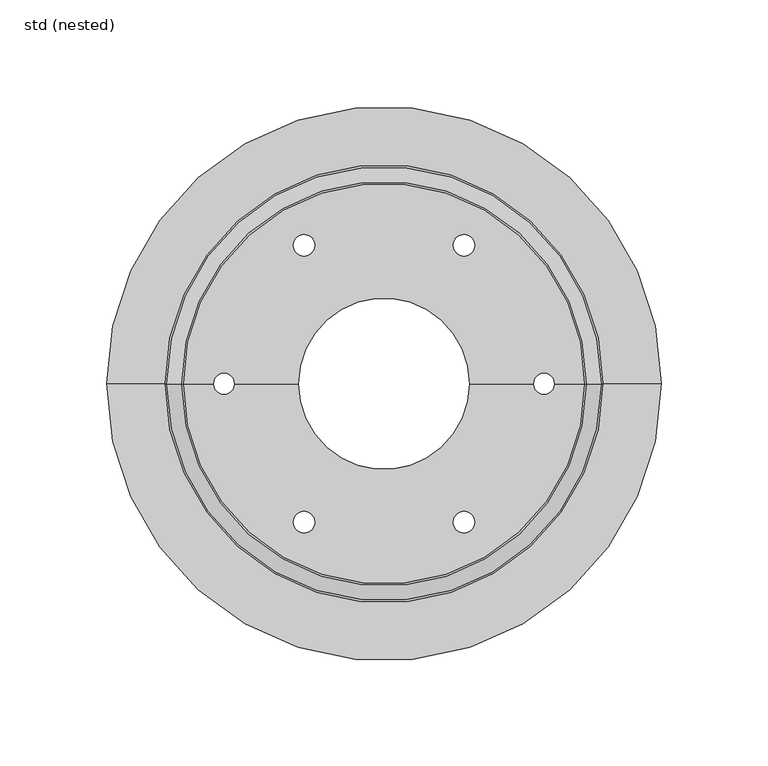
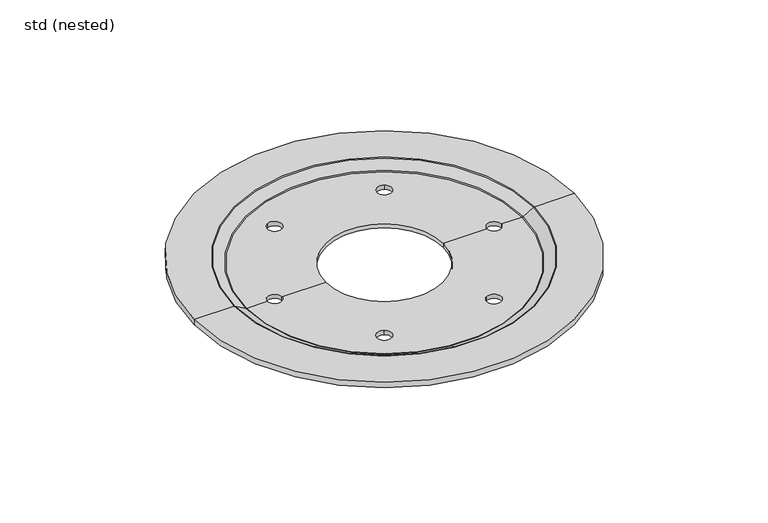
"""IFC4 building model written with IfcOpenShell, lengths in millimetres: sanitary terminal geometry, RSen_50_PF_WPB_Akasison clamp flange seal EPDM_Akatherm : std (nested)."""

from ifc_helpers import new_model, si_unit, point, frame, origin, place, context, project, spatial, polyline, circle_curve, ellipse_curve, trimmed, source, transform, mapped, element, save
from ifc_brep_helpers import plane_surface, cylinder_surface, revolved_surface, advanced_brep


def std_nested_2f69c98b(model_context):
    return source(origin(), model_context, "Body", "AdvancedBrep", [
        advanced_brep(
        [(130.0, 0.0, 4.5), (-130.0, 0.0, 4.5), (-102.80563, 0.0, 4.5), (102.80563, 0.0, 4.5), (93.9396046, 0.0, 0.0), (-93.9396046, 0.0, 0.0), (-80.0, 0.0, 0.0), (-70.0, 0.0, 0.0), (-40.1848081, 0.0, 0.0), (40.1848081, 0.0, 0.0), (70.0, 0.0, 0.0), (80.0, 0.0, 0.0), (-35.0, 60.6217783, 0.0), (-40.0, 69.2820323, 0.0), (35.0, 60.6217783, 0.0), (40.0, 69.2820323, 0.0), (35.0, -60.6217783, 0.0), (40.0, -69.2820323, 0.0), (-35.0, -60.6217783, 0.0), (-40.0, -69.2820323, 0.0), (-70.0, 0.0, -3.0), (-80.0, 0.0, -3.0), (-40.0, 69.2820323, -3.0), (-35.0, 60.6217783, -3.0), (40.0, 69.2820323, -3.0), (35.0, 60.6217783, -3.0), (80.0, 0.0, -3.0), (70.0, 0.0, -3.0), (40.0, -69.2820323, -3.0), (35.0, -60.6217783, -3.0), (-40.0, -69.2820323, -3.0), (-35.0, -60.6217783, -3.0), (130.0, 0.0, 0.5), (-130.0, 0.0, 0.5), (103.9019238, 0.0, 0.5), (-103.9019238, 0.0, 0.5), (40.1848081, 0.0, -3.0), (-40.1848081, 0.0, -3.0), (-96.7679492, 0.0, -3.0), (96.7679492, 0.0, -3.0), (97.7679492, 0.0, -2.7320508), (-97.7679492, 0.0, -2.7320508), (-102.9019238, 0.0, 0.2320508), (102.9019238, 0.0, 0.2320508), (101.80563, 0.0, 4.2320508), (-101.80563, 0.0, 4.2320508), (-94.9396046, 0.0, 0.2679492), (94.9396046, 0.0, 0.2679492)],
        [
            (0, 1, circle_curve(frame((0.0, 0.0, 4.5), z_axis=(0.0, 0.0, 1.0), x_axis=(-1.0, 0.0, 0.0)), 130.0)),
            (1, 2),
            (2, 3, circle_curve(frame((0.0, 0.0, 4.5), z_axis=(0.0, 0.0, -1.0), x_axis=(-1.0, 0.0, 0.0)), 102.80563)),
            (3, 0),
            (1, 0, circle_curve(frame((0.0, 0.0, 4.5), z_axis=(0.0, 0.0, 1.0), x_axis=(-1.0, 0.0, 0.0)), 130.0)),
            (3, 2, circle_curve(frame((0.0, 0.0, 4.5), z_axis=(0.0, 0.0, -1.0), x_axis=(-1.0, 0.0, 0.0)), 102.80563)),
            (4, 5, circle_curve(frame((0.0, 0.0, 0.0), z_axis=(0.0, 0.0, 1.0), x_axis=(-1.0, 0.0, 0.0)), 93.9396046)),
            (5, 6),
            (6, 7, circle_curve(frame((-75.0, 0.0, 0.0), z_axis=(0.0, 0.0, -1.0), x_axis=(1.0, 0.0, 0.0)), 5.0)),
            (7, 8),
            (8, 9, circle_curve(frame((0.0, 0.0, 0.0), z_axis=(0.0, 0.0, -1.0), x_axis=(-1.0, 0.0, 0.0)), 40.1848081)),
            (9, 10),
            (10, 11, circle_curve(frame((75.0, 0.0, 0.0), z_axis=(0.0, 0.0, -1.0), x_axis=(-1.0, 0.0, 0.0)), 5.0)),
            (11, 4),
            (12, 13, circle_curve(frame((-37.5, 64.9519053, 0.0), z_axis=(0.0, 0.0, -1.0), x_axis=(0.4999999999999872, -0.8660254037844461, 0.0)), 5.0)),
            (13, 12, circle_curve(frame((-37.5, 64.9519053, 0.0), z_axis=(0.0, 0.0, -1.0), x_axis=(0.4999999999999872, -0.8660254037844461, 0.0)), 5.0)),
            (14, 15, circle_curve(frame((37.5, 64.9519053, 0.0), z_axis=(0.0, 0.0, -1.0), x_axis=(-0.500000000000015, -0.86602540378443, 0.0)), 5.0)),
            (15, 14, circle_curve(frame((37.5, 64.9519053, 0.0), z_axis=(0.0, 0.0, -1.0), x_axis=(-0.500000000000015, -0.86602540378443, 0.0)), 5.0)),
            (5, 4, circle_curve(frame((0.0, 0.0, 0.0), z_axis=(0.0, 0.0, 1.0), x_axis=(-1.0, 0.0, 0.0)), 93.9396046)),
            (11, 10, circle_curve(frame((75.0, 0.0, 0.0), z_axis=(0.0, 0.0, -1.0), x_axis=(-1.0, 0.0, 0.0)), 5.0)),
            (9, 8, circle_curve(frame((0.0, 0.0, 0.0), z_axis=(0.0, 0.0, -1.0), x_axis=(-1.0, 0.0, 0.0)), 40.1848081)),
            (7, 6, circle_curve(frame((-75.0, 0.0, 0.0), z_axis=(0.0, 0.0, -1.0), x_axis=(1.0, 0.0, 0.0)), 5.0)),
            (16, 17, circle_curve(frame((37.5, -64.9519053, 0.0), z_axis=(0.0, 0.0, -1.0), x_axis=(-0.4999999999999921, 0.8660254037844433, 0.0)), 5.0)),
            (17, 16, circle_curve(frame((37.5, -64.9519053, 0.0), z_axis=(0.0, 0.0, -1.0), x_axis=(-0.4999999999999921, 0.8660254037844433, 0.0)), 5.0)),
            (18, 19, circle_curve(frame((-37.5, -64.9519053, 0.0), z_axis=(0.0, 0.0, -1.0), x_axis=(0.5000000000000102, 0.8660254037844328, 0.0)), 5.0)),
            (19, 18, circle_curve(frame((-37.5, -64.9519053, 0.0), z_axis=(0.0, 0.0, -1.0), x_axis=(0.5000000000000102, 0.8660254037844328, 0.0)), 5.0)),
            (7, 20),
            (20, 21, circle_curve(frame((-75.0, 0.0, -3.0), z_axis=(0.0, 0.0, -1.0), x_axis=(1.0, 0.0, 0.0)), 5.0)),
            (21, 6),
            (21, 20, circle_curve(frame((-75.0, 0.0, -3.0), z_axis=(0.0, 0.0, -1.0), x_axis=(1.0, 0.0, 0.0)), 5.0)),
            (22, 13),
            (12, 23),
            (23, 22, circle_curve(frame((-37.5, 64.9519053, -3.0), z_axis=(0.0, 0.0, -1.0), x_axis=(0.4999999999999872, -0.8660254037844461, 0.0)), 5.0)),
            (22, 23, circle_curve(frame((-37.5, 64.9519053, -3.0), z_axis=(0.0, 0.0, -1.0), x_axis=(0.4999999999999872, -0.8660254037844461, 0.0)), 5.0)),
            (24, 15),
            (14, 25),
            (25, 24, circle_curve(frame((37.5, 64.9519053, -3.0), z_axis=(0.0, 0.0, -1.0), x_axis=(-0.500000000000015, -0.86602540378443, 0.0)), 5.0)),
            (24, 25, circle_curve(frame((37.5, 64.9519053, -3.0), z_axis=(0.0, 0.0, -1.0), x_axis=(-0.500000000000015, -0.86602540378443, 0.0)), 5.0)),
            (26, 11),
            (10, 27),
            (27, 26, circle_curve(frame((75.0, 0.0, -3.0), z_axis=(0.0, 0.0, -1.0), x_axis=(-1.0, 0.0, 0.0)), 5.0)),
            (26, 27, circle_curve(frame((75.0, 0.0, -3.0), z_axis=(0.0, 0.0, -1.0), x_axis=(-1.0, 0.0, 0.0)), 5.0)),
            (28, 17),
            (16, 29),
            (29, 28, circle_curve(frame((37.5, -64.9519053, -3.0), z_axis=(0.0, 0.0, -1.0), x_axis=(-0.4999999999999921, 0.8660254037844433, 0.0)), 5.0)),
            (28, 29, circle_curve(frame((37.5, -64.9519053, -3.0), z_axis=(0.0, 0.0, -1.0), x_axis=(-0.4999999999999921, 0.8660254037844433, 0.0)), 5.0)),
            (30, 19),
            (18, 31),
            (31, 30, circle_curve(frame((-37.5, -64.9519053, -3.0), z_axis=(0.0, 0.0, -1.0), x_axis=(0.5000000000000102, 0.8660254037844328, 0.0)), 5.0)),
            (30, 31, circle_curve(frame((-37.5, -64.9519053, -3.0), z_axis=(0.0, 0.0, -1.0), x_axis=(0.5000000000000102, 0.8660254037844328, 0.0)), 5.0)),
            (0, 32),
            (32, 33, circle_curve(frame((0.0, 0.0, 0.5), z_axis=(0.0, 0.0, 1.0), x_axis=(-1.0, 0.0, 0.0)), 130.0)),
            (33, 1),
            (33, 32, circle_curve(frame((0.0, 0.0, 0.5), z_axis=(0.0, 0.0, 1.0), x_axis=(-1.0, 0.0, 0.0)), 130.0)),
            (32, 34),
            (34, 35, circle_curve(frame((0.0, 0.0, 0.5), z_axis=(0.0, 0.0, 1.0), x_axis=(-1.0, 0.0, 0.0)), 103.9019238)),
            (35, 33),
            (35, 34, circle_curve(frame((0.0, 0.0, 0.5), z_axis=(0.0, 0.0, 1.0), x_axis=(-1.0, 0.0, 0.0)), 103.9019238)),
            (36, 37, circle_curve(frame((0.0, 0.0, -3.0), z_axis=(0.0, 0.0, 1.0), x_axis=(-1.0, 0.0, 0.0)), 40.1848081)),
            (37, 20),
            (21, 38),
            (38, 39, circle_curve(frame((0.0, 0.0, -3.0), z_axis=(0.0, 0.0, -1.0), x_axis=(-1.0, 0.0, 0.0)), 96.7679492)),
            (39, 26),
            (27, 36),
            (37, 36, circle_curve(frame((0.0, 0.0, -3.0), z_axis=(0.0, 0.0, 1.0), x_axis=(-1.0, 0.0, 0.0)), 40.1848081)),
            (39, 38, circle_curve(frame((0.0, 0.0, -3.0), z_axis=(0.0, 0.0, -1.0), x_axis=(-1.0, 0.0, 0.0)), 96.7679492)),
            (8, 37),
            (36, 9),
            (40, 41, circle_curve(frame((0.0, 0.0, -2.7320508), z_axis=(0.0, 0.0, 1.0), x_axis=(-1.0, 0.0, 0.0)), 97.7679492)),
            (41, 42),
            (42, 43, circle_curve(frame((0.0, 0.0, 0.2320508), z_axis=(0.0, 0.0, -1.0), x_axis=(-1.0, 0.0, 0.0)), 102.9019238)),
            (43, 40),
            (41, 40, circle_curve(frame((0.0, 0.0, -2.7320508), z_axis=(0.0, 0.0, 1.0), x_axis=(-1.0, 0.0, 0.0)), 97.7679492)),
            (43, 42, circle_curve(frame((0.0, 0.0, 0.2320508), z_axis=(0.0, 0.0, -1.0), x_axis=(-1.0, 0.0, 0.0)), 102.9019238)),
            (44, 45, circle_curve(frame((0.0, 0.0, 4.2320508), z_axis=(0.0, 0.0, 1.0), x_axis=(-1.0, 0.0, 0.0)), 101.80563)),
            (45, 46),
            (46, 47, circle_curve(frame((0.0, 0.0, 0.2679492), z_axis=(0.0, 0.0, -1.0), x_axis=(-1.0, 0.0, 0.0)), 94.9396046)),
            (47, 44),
            (45, 44, circle_curve(frame((0.0, 0.0, 4.2320508), z_axis=(0.0, 0.0, 1.0), x_axis=(-1.0, 0.0, 0.0)), 101.80563)),
            (47, 46, circle_curve(frame((0.0, 0.0, 0.2679492), z_axis=(0.0, 0.0, -1.0), x_axis=(-1.0, 0.0, 0.0)), 94.9396046)),
            (34, 43, circle_curve(frame((103.9019238, 0.0, -1.5), z_axis=(0.0, -1.0, 0.0), x_axis=(-1.0, 0.0, 0.0)), 2.0)),
            (42, 35, circle_curve(frame((-103.9019238, 0.0, -1.5), z_axis=(0.0, -1.0, 0.0), x_axis=(1.0, 0.0, 0.0)), 2.0)),
            (38, 41, circle_curve(frame((-96.7679492, 0.0, -1.0), z_axis=(0.0, 1.0, 0.0), x_axis=(1.0, 0.0, 0.0)), 2.0)),
            (40, 39, circle_curve(frame((96.7679492, 0.0, -1.0), z_axis=(0.0, 1.0, 0.0), x_axis=(-1.0, 0.0, 0.0)), 2.0)),
            (4, 47, circle_curve(frame((93.9396046, 0.0, 2.0), z_axis=(0.0, -1.0, 0.0), x_axis=(-1.0, 0.0, 0.0)), 2.0)),
            (46, 5, circle_curve(frame((-93.9396046, 0.0, 2.0), z_axis=(0.0, -1.0, 0.0), x_axis=(1.0, 0.0, 0.0)), 2.0)),
            (2, 45, circle_curve(frame((-102.80563, 0.0, 2.5), z_axis=(0.0, 1.0, 0.0), x_axis=(1.0, 0.0, 0.0)), 2.0)),
            (44, 3, circle_curve(frame((102.80563, 0.0, 2.5), z_axis=(0.0, 1.0, 0.0), x_axis=(-1.0, 0.0, 0.0)), 2.0)),
        ],
        [
            plane_surface(frame((0.0, 0.0, 4.5), z_axis=(0.0, 0.0, 1.0), x_axis=(-1.0, 0.0, 0.0))),
            plane_surface(frame((0.0, 0.0, 0.0), z_axis=(0.0, 0.0, 1.0), x_axis=(-1.0, 0.0, 0.0))),
            revolved_surface(polyline([(-70.0, 0.0, 0.0), (-70.0, 0.0, -3.0)]), (-75.0, 0.0, -3.0), (0.0, 0.0, 1.0)),
            revolved_surface(polyline([(-35.000000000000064, 60.62177828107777, 1.7763568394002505e-15), (-35.000000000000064, 60.62177828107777, -3.0)]), (-37.5, 64.9519053, -3.0), (0.0, 0.0, 1.0000000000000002)),
            revolved_surface(polyline([(34.99999999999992, 60.62177828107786, 0.0), (34.99999999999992, 60.62177828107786, -3.0)]), (37.5, 64.9519053, -3.0), (0.0, 0.0, 1.0)),
            revolved_surface(polyline([(70.0, 0.0, 0.0), (70.0, 0.0, -3.0)]), (75.0, 0.0, -3.0), (0.0, 0.0, 1.0)),
            revolved_surface(polyline([(35.00000000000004, -60.621778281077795, 0.0), (35.00000000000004, -60.621778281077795, -3.0)]), (37.5, -64.9519053, -3.0), (0.0, 0.0, 1.0)),
            revolved_surface(polyline([(-34.99999999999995, -60.621778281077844, 0.0), (-34.99999999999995, -60.621778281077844, -3.0)]), (-37.5, -64.9519053, -3.0), (0.0, 0.0, 1.0)),
            cylinder_surface(frame((0.0, 0.0, 106.5), z_axis=(0.0, 0.0, -1.0), x_axis=(-1.0, 0.0, 0.0)), 130.0),
            plane_surface(frame((0.0, 0.0, 0.5), z_axis=(0.0, 0.0, -1.0), x_axis=(-1.0, 0.0, 0.0))),
            plane_surface(frame((0.0, 0.0, -3.0), z_axis=(0.0, 0.0, -1.0), x_axis=(-1.0, 0.0, 0.0))),
            revolved_surface(polyline([(-40.1848081, 0.0, -3.0), (-40.1848081, 0.0, 0.0)]), (0.0, 0.0, 106.5), (0.0, 0.0, -1.0)),
            revolved_surface(polyline([(-102.9019238, 0.0, 0.2320508), (-97.7679492, 0.0, -2.7320508)]), (0.0, 0.0, 106.5), (0.0, 0.0, -1.0)),
            revolved_surface(polyline([(-94.9396046, 0.0, 0.2679492), (-101.80563, 0.0, 4.2320508)]), (0.0, 0.0, 106.5), (0.0, 0.0, -1.0)),
            revolved_surface(trimmed(ellipse_curve(frame((-103.9019238, 0.0, -1.5), z_axis=(0.0, 1.0, 0.0), x_axis=(1.0, 0.0, 0.0)), 2.0, 2.0), [point((-103.9019238, 0.0, 0.5))], [point((-102.9019238, 0.0, 0.2320508))], True, "CARTESIAN"), (0.0, 0.0, 106.5), (0.0, 0.0, -1.0)),
            revolved_surface(trimmed(ellipse_curve(frame((-96.7679492, 0.0, -1.0), z_axis=(0.0, -1.0, 0.0), x_axis=(1.0, 0.0, 0.0)), 2.0, 2.0), [point((-97.7679492, 0.0, -2.7320508))], [point((-96.7679492, 0.0, -3.0))], True, "CARTESIAN"), (0.0, 0.0, 106.5), (0.0, 0.0, -1.0)),
            revolved_surface(trimmed(ellipse_curve(frame((-93.9396046, 0.0, 2.0), z_axis=(0.0, 1.0, 0.0), x_axis=(1.0, 0.0, 0.0)), 2.0, 2.0), [point((-93.9396046, 0.0, 0.0))], [point((-94.9396046, 0.0, 0.2679492))], True, "CARTESIAN"), (0.0, 0.0, 106.5), (0.0, 0.0, -1.0)),
            revolved_surface(trimmed(ellipse_curve(frame((-102.80563, 0.0, 2.5), z_axis=(0.0, -1.0, 0.0), x_axis=(1.0, 0.0, 0.0)), 2.0, 2.0), [point((-101.80563, 0.0, 4.2320508))], [point((-102.80563, 0.0, 4.5))], True, "CARTESIAN"), (0.0, 0.0, 106.5), (0.0, 0.0, -1.0)),
        ],
        [
            (0, [[1, 2, 3, 4]]),
            (0, [[-2, 5, -4, 6]]),
            (1, [[7, 8, 9, 10, 11, 12, 13, 14], [15, 16], [17, 18]]),
            (1, [[19, -14, 20, -12, 21, -10, 22, -8], [23, 24], [25, 26]]),
            (2, [[27, 28, 29, -22]]),
            (2, [[-27, -9, -29, 30]]),
            (3, [[31, -15, 32, 33]]),
            (3, [[-31, 34, -32, -16]]),
            (4, [[35, -17, 36, 37]]),
            (4, [[-35, 38, -36, -18]]),
            (5, [[39, -13, 40, 41]]),
            (5, [[-39, 42, -40, -20]]),
            (6, [[43, -23, 44, 45]]),
            (6, [[-43, 46, -44, -24]]),
            (7, [[47, -25, 48, 49]]),
            (7, [[-47, 50, -48, -26]]),
            (8, [[-1, 51, 52, 53]]),
            (8, [[-5, -53, 54, -51]]),
            (9, [[-52, 55, 56, 57]]),
            (9, [[-54, -57, 58, -55]]),
            (10, [[59, 60, -30, 61, 62, 63, -41, 64], [-33, -34], [-37, -38]]),
            (10, [[65, -64, -42, -63, 66, -61, -28, -60], [-45, -46], [-49, -50]]),
            (11, [[-11, 67, -59, 68]]),
            (11, [[-21, -68, -65, -67]]),
            (12, [[69, 70, 71, 72]]),
            (12, [[-70, 73, -72, 74]]),
            (13, [[75, 76, 77, 78]]),
            (13, [[-76, 79, -78, 80]]),
            (14, [[-56, 81, -71, 82]]),
            (14, [[-58, -82, -74, -81]]),
            (15, [[-62, 83, -69, 84]]),
            (15, [[-66, -84, -73, -83]]),
            (16, [[-7, 85, -77, 86]]),
            (16, [[-19, -86, -80, -85]]),
            (17, [[-3, 87, -75, 88]]),
            (17, [[-6, -88, -79, -87]]),
        ],
    ),
    ])


if __name__ == "__main__":
    model = new_model("IFC4")
    model_context = context("Model", 3, world=origin())
    ifc_project = project(units=[si_unit("LENGTHUNIT", "METRE", prefix="MILLI")], contexts=[model_context])
    site = spatial("IfcSite", under=ifc_project)
    building = spatial("IfcBuilding", under=site)
    placement = place(None, origin())
    std_nested_shape = std_nested_2f69c98b(model_context)
    element("IfcSanitaryTerminal", 1, ObjectType="RSen_50_PF_WPB_Akasison clamp flange seal EPDM_Akatherm : std (nested)", at=placement, inside=building, context=model_context, shape_type="MappedRepresentation", body=[
        mapped(std_nested_shape, transform((0.0, 0.0, 0.0), x_axis=(1.0, 0.0, 0.0), y_axis=(0.0, 1.0, 0.0), z_axis=(0.0, 0.0, 1.0))),
    ])
    save(model, "model.ifc")
